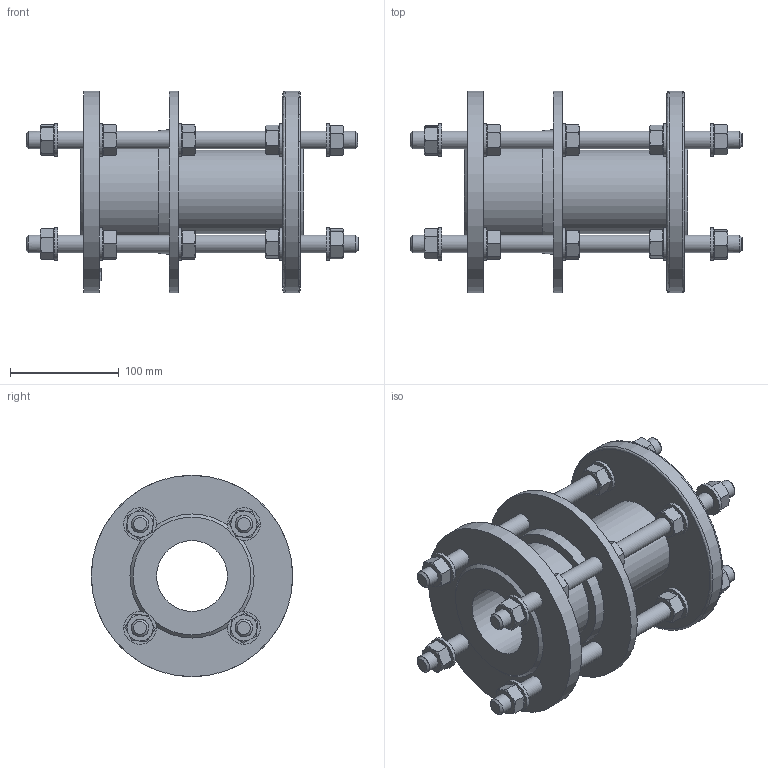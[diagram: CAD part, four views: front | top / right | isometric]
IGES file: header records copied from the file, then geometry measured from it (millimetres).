
Start section: SolidWorks IGES file using analytic representation for surfaces
Global section: file name: \\avksan2\techshare\PBM outline export from Enovia\O_265_910_DN60_1XXXXX00_L=205_REV01.igs; native system: SolidWorks 2022; preprocessor: SolidWorks 2022; author: pbm; date: 241011.100211; units: millimetre
Bounding box: 305 x 185 x 185 mm (x, y, z)
Surface area: 308647.4 mm2 (no closed solid volume)
Topology: 0 solids, 0 shells, 549 faces, 2291 edges, 2208 vertices
Faces by surface type: bspline 344, revolution 205
